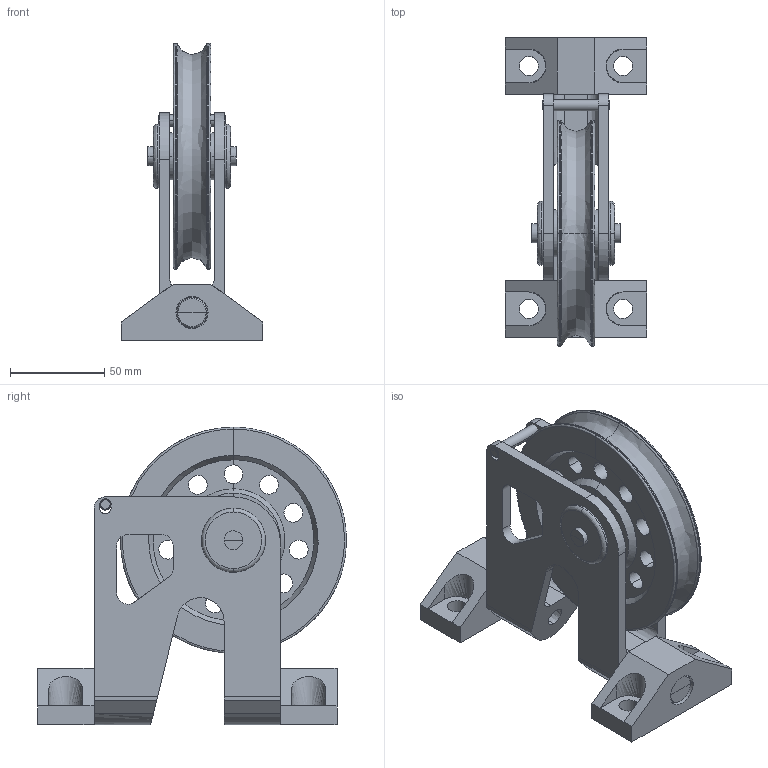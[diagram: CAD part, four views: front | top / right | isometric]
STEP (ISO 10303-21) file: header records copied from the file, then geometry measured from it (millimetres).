
FILE_DESCRIPTION(/* description */ (''),/* implementation_level */ '2;1');
FILE_NAME(/* name */ 'POULIE SIMPLE ARTICULEE D 120',/* time_stamp */ '2005-05-31T08:57:16+02:00',/* author */ (''),/* organization */ (''),/* preprocessor_version */ 'ST-DEVELOPER v8',/* originating_system */ '',/* authorisation */ '');
FILE_SCHEMA (('CONFIG_CONTROL_DESIGN'));
Length unit declared in the file: millimetre
Products named in the file (1): 1
Bounding box: 75 x 163.98 x 158 mm (x, y, z)
Volume: 384618.9 mm3; surface area: 124605.9 mm2
Topology: 17 solids, 17 shells, 299 faces, 728 edges, 439 vertices
Faces by surface type: bspline 299
Entity records: 11148 total; most frequent: CARTESIAN_POINT 7041, ORIENTED_EDGE 1382, EDGE_CURVE 691, VERTEX_POINT 435, B_SPLINE_CURVE_WITH_KNOTS 379, EDGE_LOOP 361, ADVANCED_FACE 299, FACE_OUTER_BOUND 299
